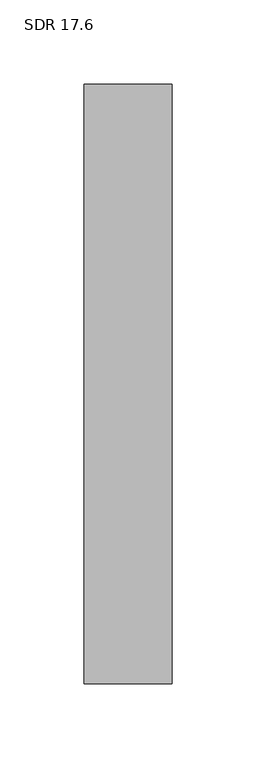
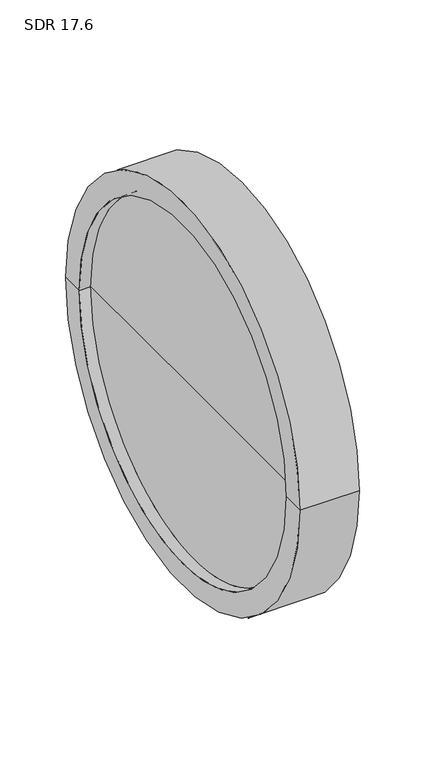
"""IFC4 building model written with IfcOpenShell, lengths in millimetres: pipe fitting geometry, Aquatherm - End Cap Butt-Weld : SDR 17.6."""

from ifc_helpers import new_model, si_unit, frame, origin, place, context, project, spatial, polyline, circle_curve, source, transform, mapped, element, save
from ifc_brep_helpers import plane_surface, cylinder_surface, revolved_surface, advanced_brep


def sdr_17_6_22f3e381(model_context):
    return source(origin(), model_context, "Body", "AdvancedBrep", [
        advanced_brep(
        [(52.07, -177.8, 0.0), (52.07, 177.8, 0.0), (52.07, 0.0, 0.0), (10.16, 0.0, 0.0), (10.16, 157.48, 0.0), (10.16, -157.48, 0.0), (0.0, 157.48, 0.0), (0.0, -157.48, 0.0), (0.0, 177.8, 0.0), (0.0, -177.8, 0.0)],
        [
            (0, 1, circle_curve(frame((52.07, 0.0, 0.0), z_axis=(1.0, 0.0, 0.0), x_axis=(0.0, 1.0, 0.0)), 177.8)),
            (1, 2),
            (2, 0),
            (1, 0, circle_curve(frame((52.07, 0.0, 0.0), z_axis=(1.0, 0.0, 0.0), x_axis=(0.0, 1.0, 0.0)), 177.8)),
            (3, 4),
            (4, 5, circle_curve(frame((10.16, 0.0, 0.0), z_axis=(-1.0, 0.0, 0.0), x_axis=(0.0, 1.0, 0.0)), 157.48)),
            (5, 3),
            (5, 4, circle_curve(frame((10.16, 0.0, 0.0), z_axis=(-1.0, 0.0, 0.0), x_axis=(0.0, 1.0, 0.0)), 157.48)),
            (4, 6),
            (6, 7, circle_curve(frame((0.0, 0.0, 0.0), z_axis=(-1.0, 0.0, 0.0), x_axis=(0.0, 1.0, 0.0)), 157.48)),
            (7, 5),
            (7, 6, circle_curve(frame((0.0, 0.0, 0.0), z_axis=(-1.0, 0.0, 0.0), x_axis=(0.0, 1.0, 0.0)), 157.48)),
            (6, 8),
            (8, 9, circle_curve(frame((0.0, 0.0, 0.0), z_axis=(-1.0, 0.0, 0.0), x_axis=(0.0, 1.0, 0.0)), 177.8)),
            (9, 7),
            (9, 8, circle_curve(frame((0.0, 0.0, 0.0), z_axis=(-1.0, 0.0, 0.0), x_axis=(0.0, 1.0, 0.0)), 177.8)),
            (8, 1),
            (0, 9),
        ],
        [
            plane_surface(frame((52.07, 0.0, 0.0), z_axis=(1.0, 0.0, 0.0), x_axis=(0.0, 1.0, 0.0))),
            plane_surface(frame((10.16, 0.0, 0.0), z_axis=(-1.0, 0.0, 0.0), x_axis=(0.0, 1.0, 0.0))),
            revolved_surface(polyline([(0.0, 157.48, 0.0), (10.160000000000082, 157.48, 0.0)]), (-1391.92, 0.0, 0.0), (-1.0, 0.0, 0.0)),
            plane_surface(frame((0.0, 0.0, 0.0), z_axis=(-1.0, 0.0, 0.0), x_axis=(0.0, 1.0, 0.0))),
            cylinder_surface(frame((-1391.92, 0.0, 0.0), z_axis=(-1.0, 0.0, 0.0), x_axis=(0.0, 1.0, 0.0)), 177.8),
        ],
        [
            (0, [[1, 2, 3]]),
            (0, [[4, -3, -2]]),
            (1, [[5, 6, 7]]),
            (1, [[-7, 8, -5]]),
            (2, [[-6, 9, 10, 11]]),
            (2, [[-8, -11, 12, -9]]),
            (3, [[-10, 13, 14, 15]]),
            (3, [[-12, -15, 16, -13]]),
            (4, [[-14, 17, -1, 18]]),
            (4, [[-16, -18, -4, -17]]),
        ],
    ),
    ])


if __name__ == "__main__":
    model = new_model("IFC4")
    model_context = context("Model", 3, world=origin())
    ifc_project = project(units=[si_unit("LENGTHUNIT", "METRE", prefix="MILLI")], contexts=[model_context])
    site = spatial("IfcSite", under=ifc_project)
    building = spatial("IfcBuilding", under=site)
    placement = place(None, origin())
    sdr_17_6_shape = sdr_17_6_22f3e381(model_context)
    element("IfcPipeFitting", 1, ObjectType="Aquatherm - End Cap Butt-Weld : SDR 17.6", at=placement, inside=building, context=model_context, shape_type="MappedRepresentation", body=[
        mapped(sdr_17_6_shape, transform((0.0, 0.0, 0.0), x_axis=(1.0, 0.0, 0.0), y_axis=(0.0, 1.0, 0.0), z_axis=(0.0, 0.0, 1.0))),
    ])
    save(model, "model.ifc")
